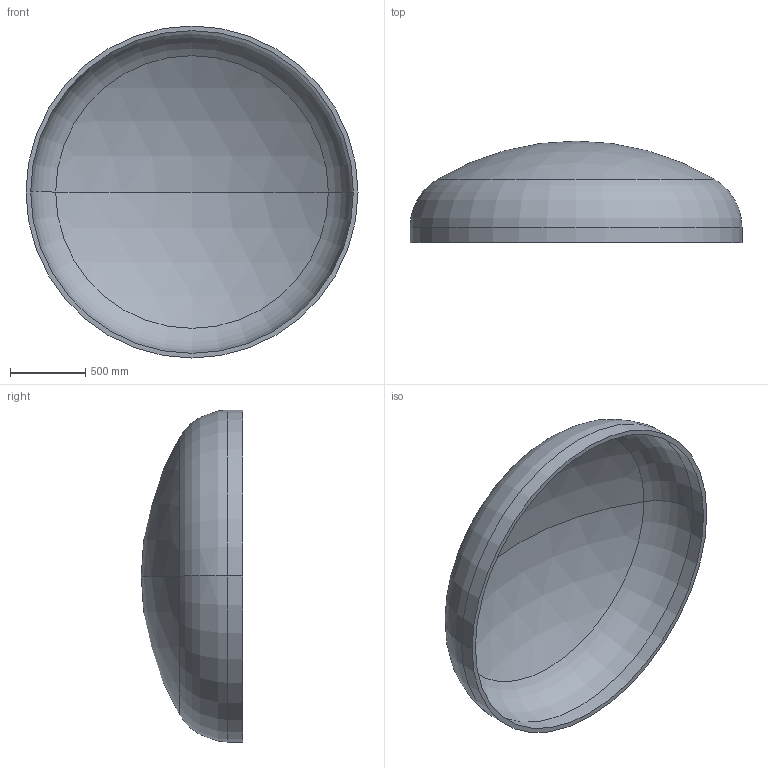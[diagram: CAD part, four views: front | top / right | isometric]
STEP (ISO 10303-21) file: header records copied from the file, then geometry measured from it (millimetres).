
FILE_DESCRIPTION (( 'STEP AP203' ), '1' );
FILE_NAME ('DIN 28013 Korbbogenform_-_Boden DIN 28013 - 2200 x 100 - I - s=31.step', '2016-07-01T14:30:22', ( '' ), ( '' ), 'SwSTEP 2.0', 'SolidWorks 2013', '' );
FILE_SCHEMA (( 'CONFIG_CONTROL_DESIGN' ));
Length unit declared in the file: millimetre
Products named in the file (1): DIN 28013 Korbbogenform_-_Boden DIN 28013 - 2200 x 100 - I - s=31
Bounding box: 2200 x 672.41 x 2200 mm (x, y, z)
Volume: 181433640.3 mm3; surface area: 11918642.4 mm2
Topology: 1 solids, 1 shells, 13 faces, 24 edges, 14 vertices
Faces by surface type: torus 4, cylinder 4, sphere 4, plane 1
Entity records: 407 total; most frequent: DIRECTION 72, CARTESIAN_POINT 52, ORIENTED_EDGE 48, AXIS2_PLACEMENT_3D 34, EDGE_CURVE 24, CIRCLE 20, EDGE_LOOP 14, VERTEX_POINT 14
